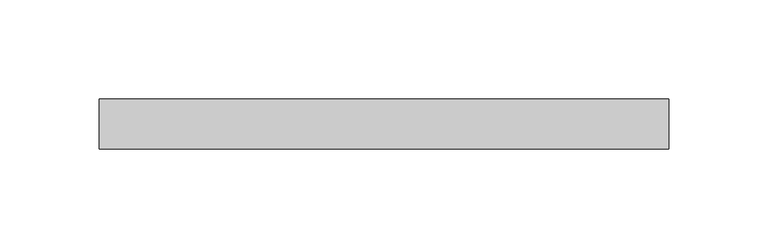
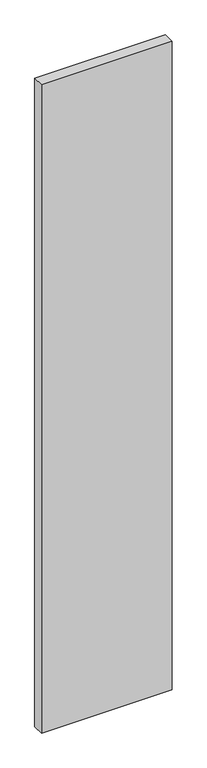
"""IFC4 building model written with IfcOpenShell, lengths in millimetres: plate geometry, Системная панель : С остеклением."""

from ifc_helpers import new_model, si_unit, origin, origin_with_axes, place, context, project, spatial, polyline, outline, extrude, source, transform, mapped, element, save


def plate_af1c8bcc(model_context):
    return source(origin(), model_context, "Body", "SweptSolid", [
        extrude(outline(polyline([(143.0, 24.5), (-143.0, 24.5), (-143.0, 49.5), (143.0, 49.5), (143.0, 24.5)])), origin_with_axes(), (0.0, 0.0, 1.0), 1500.0),
    ])


if __name__ == "__main__":
    model = new_model("IFC4")
    model_context = context("Model", 3, world=origin())
    ifc_project = project(units=[si_unit("LENGTHUNIT", "METRE", prefix="MILLI")], contexts=[model_context])
    site = spatial("IfcSite", under=ifc_project)
    building = spatial("IfcBuilding", under=site)
    placement = place(None, origin())
    plate_shape = plate_af1c8bcc(model_context)
    element("IfcPlate", 1, ObjectType="Системная панель : С остеклением", at=placement, inside=building, context=model_context, shape_type="MappedRepresentation", body=[
        mapped(plate_shape, transform((0.0, 0.0, 0.0), x_axis=(1.0, 0.0, 0.0), y_axis=(0.0, 1.0, 0.0), z_axis=(0.0, 0.0, 1.0))),
    ])
    save(model, "model.ifc")
